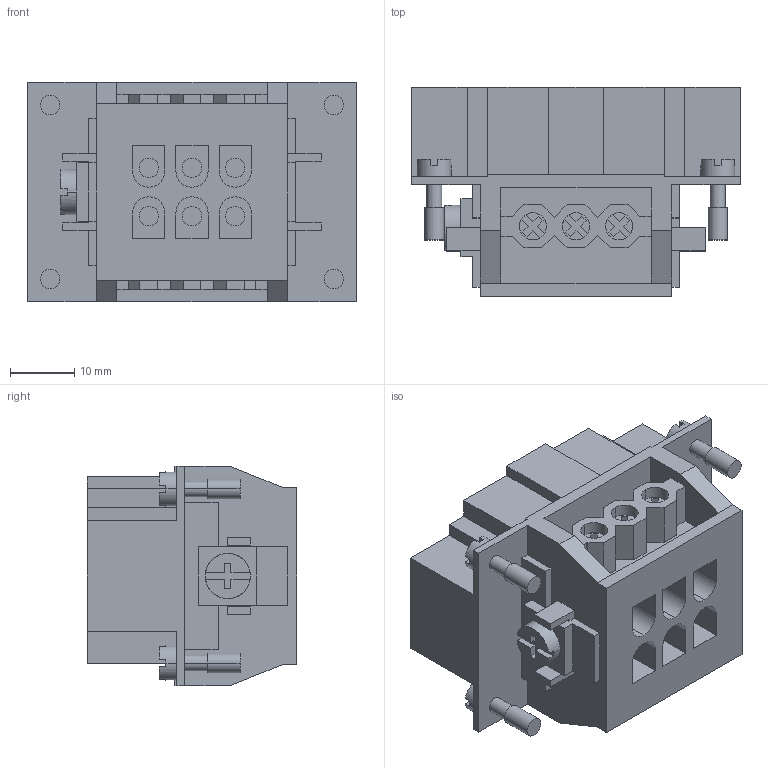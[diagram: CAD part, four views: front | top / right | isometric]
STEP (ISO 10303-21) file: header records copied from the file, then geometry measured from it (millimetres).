
FILE_DESCRIPTION (( 'STEP AP203' ), '1' );
FILE_NAME ('352246.STEP', '2025-06-26T09:04:36', ( '' ), ( '' ), 'SwSTEP 2.0', 'SolidWorks 2018', '' );
FILE_SCHEMA (( 'CONFIG_CONTROL_DESIGN' ));
Length unit declared in the file: millimetre
Products named in the file (1): 352246
Bounding box: 51 x 32.5 x 34 mm (x, y, z)
Volume: 22444.7 mm3; surface area: 14460.8 mm2
Topology: 1 solids, 1 shells, 453 faces, 1236 edges, 818 vertices
Faces by surface type: plane 353, cylinder 88, sphere 12
Entity records: 14143 total; most frequent: CARTESIAN_POINT 2472, ORIENTED_EDGE 2424, DIRECTION 2368, EDGE_CURVE 1212, VECTOR 964, LINE 964, VERTEX_POINT 806, AXIS2_PLACEMENT_3D 702
